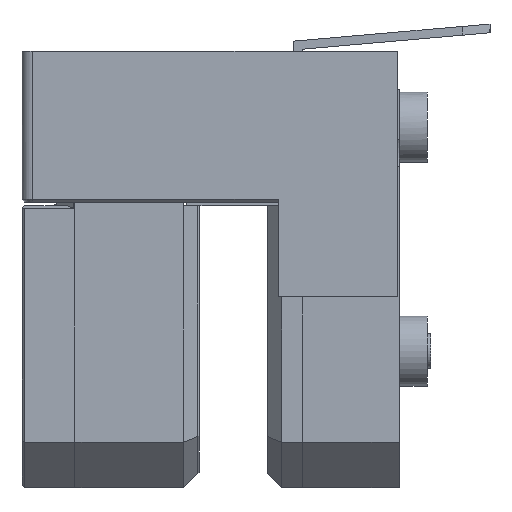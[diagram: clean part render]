
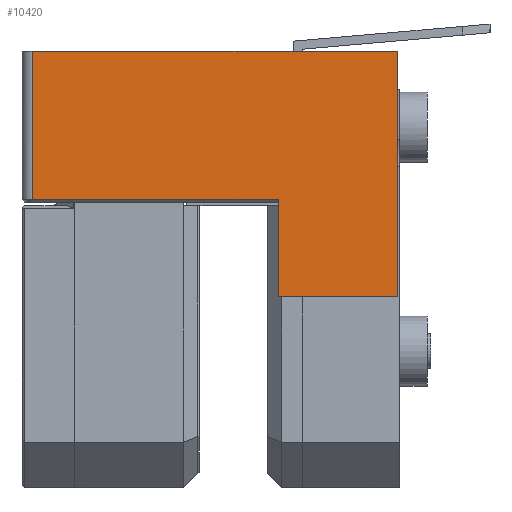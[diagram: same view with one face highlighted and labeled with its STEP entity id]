
A CAD part, left-side view. The second image highlights one B-rep face of the part: STEP entity #10420.
In plain terms, the highlighted planar face has unit normal (-1, 0, 0).
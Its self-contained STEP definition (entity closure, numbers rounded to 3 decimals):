
#199 = CARTESIAN_POINT ( 'NONE',  ( -12.996, 8.238, 26.398 ) ) ;
#230 = VECTOR ( 'NONE', #7855, 1000. ) ;
#392 = ORIENTED_EDGE ( 'NONE', *, *, #1364, .T. ) ;
#426 = CARTESIAN_POINT ( 'NONE',  ( -12.996, -39.676, 30.618 ) ) ;
#453 = LINE ( 'NONE', #1614, #7176 ) ;
#1020 = VECTOR ( 'NONE', #3581, 1000. ) ;
#1035 = PLANE ( 'NONE',  #7715 ) ;
#1286 = VECTOR ( 'NONE', #9759, 1000. ) ;
#1364 = EDGE_CURVE ( 'NONE', #4044, #5725, #10738, .T. ) ;
#1614 = CARTESIAN_POINT ( 'NONE',  ( -12.996, -2.262, 30.618 ) ) ;
#1705 = VECTOR ( 'NONE', #8983, 1000. ) ;
#2207 = ORIENTED_EDGE ( 'NONE', *, *, #2585, .F. ) ;
#2271 = CARTESIAN_POINT ( 'NONE',  ( -12.996, -2.262, 23.618 ) ) ;
#2555 = CARTESIAN_POINT ( 'NONE',  ( -12.996, 1.138, 3.618 ) ) ;
#2585 = EDGE_CURVE ( 'NONE', #9045, #5725, #6469, .T. ) ;
#2822 = EDGE_CURVE ( 'NONE', #9045, #12693, #453, .T. ) ;
#3581 = DIRECTION ( 'NONE',  ( 0., -1., 0. ) ) ;
#4044 = VERTEX_POINT ( 'NONE', #10896 ) ;
#4237 = FACE_OUTER_BOUND ( 'NONE', #8065, .T. ) ;
#5270 = ORIENTED_EDGE ( 'NONE', *, *, #10046, .F. ) ;
#5531 = VERTEX_POINT ( 'NONE', #8196 ) ;
#5725 = VERTEX_POINT ( 'NONE', #6396 ) ;
#6013 = CARTESIAN_POINT ( 'NONE',  ( -12.996, -2.262, 30.618 ) ) ;
#6194 = DIRECTION ( 'NONE',  ( 0., -1., 0. ) ) ;
#6283 = ORIENTED_EDGE ( 'NONE', *, *, #12860, .T. ) ;
#6396 = CARTESIAN_POINT ( 'NONE',  ( -12.996, 1.138, 23.618 ) ) ;
#6469 = LINE ( 'NONE', #8772, #1705 ) ;
#6678 = LINE ( 'NONE', #11215, #230 ) ;
#7176 = VECTOR ( 'NONE', #8316, 1000. ) ;
#7697 = VECTOR ( 'NONE', #6194, 1000. ) ;
#7715 = AXIS2_PLACEMENT_3D ( 'NONE', #12231, #12367, #11251 ) ;
#7855 = DIRECTION ( 'NONE',  ( 0., 0., -1. ) ) ;
#8065 = EDGE_LOOP ( 'NONE', ( #2207, #14690, #5270, #6283, #9704, #392 ) ) ;
#8196 = CARTESIAN_POINT ( 'NONE',  ( -12.996, 8.138, 30.618 ) ) ;
#8316 = DIRECTION ( 'NONE',  ( 0., 0., 1. ) ) ;
#8772 = CARTESIAN_POINT ( 'NONE',  ( -12.996, -39.676, 23.618 ) ) ;
#8983 = DIRECTION ( 'NONE',  ( 0., 1., 0. ) ) ;
#9045 = VERTEX_POINT ( 'NONE', #2271 ) ;
#9704 = ORIENTED_EDGE ( 'NONE', *, *, #14094, .T. ) ;
#9759 = DIRECTION ( 'NONE',  ( 0., 0., -1. ) ) ;
#10046 = EDGE_CURVE ( 'NONE', #5531, #12693, #11658, .T. ) ;
#10081 = CARTESIAN_POINT ( 'NONE',  ( -12.996, 8.138, 26.398 ) ) ;
#10420 = ADVANCED_FACE ( 'NONE', ( #4237 ), #1035, .T. ) ;
#10738 = LINE ( 'NONE', #2555, #1286 ) ;
#10896 = CARTESIAN_POINT ( 'NONE',  ( -12.996, 1.138, 26.398 ) ) ;
#11027 = VERTEX_POINT ( 'NONE', #10081 ) ;
#11215 = CARTESIAN_POINT ( 'NONE',  ( -12.996, 8.138, 3.618 ) ) ;
#11251 = DIRECTION ( 'NONE',  ( 0., 0., 1. ) ) ;
#11658 = LINE ( 'NONE', #426, #1020 ) ;
#12231 = CARTESIAN_POINT ( 'NONE',  ( -12.996, 8.238, 3.618 ) ) ;
#12367 = DIRECTION ( 'NONE',  ( -1., 0., 0. ) ) ;
#12693 = VERTEX_POINT ( 'NONE', #6013 ) ;
#12696 = LINE ( 'NONE', #199, #7697 ) ;
#12860 = EDGE_CURVE ( 'NONE', #5531, #11027, #6678, .T. ) ;
#14094 = EDGE_CURVE ( 'NONE', #11027, #4044, #12696, .T. ) ;
#14690 = ORIENTED_EDGE ( 'NONE', *, *, #2822, .T. ) ;
